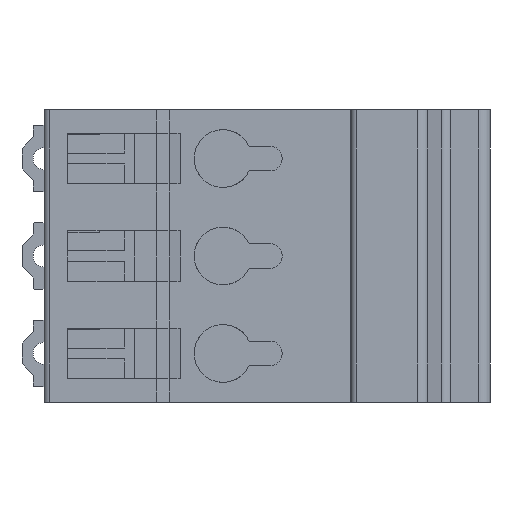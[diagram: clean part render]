
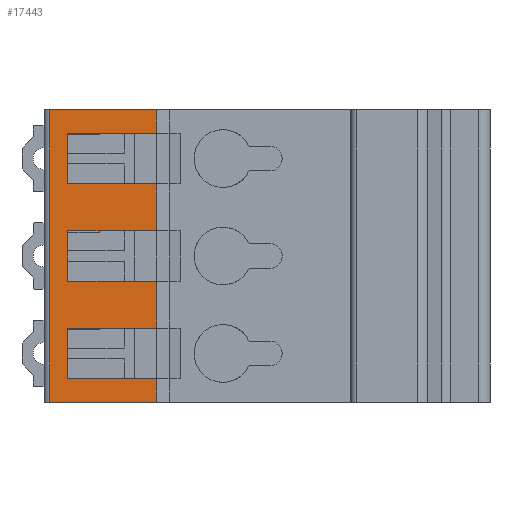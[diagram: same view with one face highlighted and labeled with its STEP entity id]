
A CAD part, front view. The second image highlights one B-rep face of the part: STEP entity #17443.
In plain terms, the highlighted planar face has unit normal (0, -1, 0).
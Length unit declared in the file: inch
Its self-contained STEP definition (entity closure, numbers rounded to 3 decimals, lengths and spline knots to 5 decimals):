
#3982=DIRECTION('',(0.,0.,1.));
#3983=VECTOR('',#3982,0.33465);
#3984=CARTESIAN_POINT('',(0.9626,0.,-0.16732));
#3985=LINE('',#3984,#3983);
#3986=DIRECTION('',(1.,0.,0.));
#3987=VECTOR('',#3986,0.76575);
#3988=CARTESIAN_POINT('',(0.19685,0.,0.69685));
#3989=LINE('',#3988,#3987);
#3990=DIRECTION('',(-1.,0.,0.));
#3991=VECTOR('',#3990,0.76575);
#3992=CARTESIAN_POINT('',(0.9626,0.,-1.3937));
#3993=LINE('',#3992,#3991);
#4002=DIRECTION('',(0.,0.,-1.));
#4003=VECTOR('',#4002,0.69685);
#4004=CARTESIAN_POINT('',(0.19685,0.,0.69685));
#4005=LINE('',#4004,#4003);
#4006=DIRECTION('',(0.,0.,-1.));
#4007=VECTOR('',#4006,0.69685);
#4008=CARTESIAN_POINT('',(0.19685,0.,0.));
#4009=LINE('',#4008,#4007);
#4010=DIRECTION('',(0.,0.,-1.));
#4011=VECTOR('',#4010,0.69685);
#4012=CARTESIAN_POINT('',(0.19685,0.,-0.69685));
#4013=LINE('',#4012,#4011);
#5643=DIRECTION('',(0.,0.,1.));
#5644=VECTOR('',#5643,0.16732);
#5645=CARTESIAN_POINT('',(0.9626,0.,-1.3937));
#5646=LINE('',#5645,#5644);
#5699=DIRECTION('',(-1.,0.,0.));
#5700=VECTOR('',#5699,0.63583);
#5701=CARTESIAN_POINT('',(0.9626,0.,-1.22638));
#5702=LINE('',#5701,#5700);
#5735=DIRECTION('',(0.,0.,1.));
#5736=VECTOR('',#5735,0.3622);
#5737=CARTESIAN_POINT('',(0.32677,0.,-1.22638));
#5738=LINE('',#5737,#5736);
#5767=DIRECTION('',(1.,0.,0.));
#5768=VECTOR('',#5767,0.63583);
#5769=CARTESIAN_POINT('',(0.32677,0.,-0.86417));
#5770=LINE('',#5769,#5768);
#5795=DIRECTION('',(0.,0.,1.));
#5796=VECTOR('',#5795,0.33465);
#5797=CARTESIAN_POINT('',(0.9626,0.,-0.86417));
#5798=LINE('',#5797,#5796);
#5875=DIRECTION('',(-1.,0.,0.));
#5876=VECTOR('',#5875,0.63583);
#5877=CARTESIAN_POINT('',(0.9626,0.,-0.52953));
#5878=LINE('',#5877,#5876);
#5911=DIRECTION('',(0.,0.,1.));
#5912=VECTOR('',#5911,0.3622);
#5913=CARTESIAN_POINT('',(0.32677,0.,-0.52953));
#5914=LINE('',#5913,#5912);
#5943=DIRECTION('',(1.,0.,0.));
#5944=VECTOR('',#5943,0.63583);
#5945=CARTESIAN_POINT('',(0.32677,0.,-0.16732));
#5946=LINE('',#5945,#5944);
#8102=DIRECTION('',(0.,0.,1.));
#8103=VECTOR('',#8102,0.16732);
#8104=CARTESIAN_POINT('',(0.9626,0.,0.52953));
#8105=LINE('',#8104,#8103);
#8141=DIRECTION('',(1.,0.,0.));
#8142=VECTOR('',#8141,0.63583);
#8143=CARTESIAN_POINT('',(0.32677,0.,0.52953));
#8144=LINE('',#8143,#8142);
#8189=DIRECTION('',(0.,0.,1.));
#8190=VECTOR('',#8189,0.3622);
#8191=CARTESIAN_POINT('',(0.32677,0.,0.16732));
#8192=LINE('',#8191,#8190);
#8595=DIRECTION('',(-1.,0.,0.));
#8596=VECTOR('',#8595,0.63583);
#8597=CARTESIAN_POINT('',(0.9626,0.,0.16732));
#8598=LINE('',#8597,#8596);
#9177=CARTESIAN_POINT('',(0.32677,0.,-0.52953));
#9178=CARTESIAN_POINT('',(0.32677,0.,-0.16732));
#9179=VERTEX_POINT('',#9177);
#9180=VERTEX_POINT('',#9178);
#9181=CARTESIAN_POINT('',(0.9626,0.,-0.52953));
#9182=VERTEX_POINT('',#9181);
#9183=CARTESIAN_POINT('',(0.9626,0.,-0.16732));
#9184=VERTEX_POINT('',#9183);
#9997=CARTESIAN_POINT('',(0.19685,0.,-1.3937));
#9998=VERTEX_POINT('',#9997);
#9999=CARTESIAN_POINT('',(0.9626,0.,-1.3937));
#10000=VERTEX_POINT('',#9999);
#10129=CARTESIAN_POINT('',(0.32677,0.,-1.22638));
#10130=CARTESIAN_POINT('',(0.32677,0.,-0.86417));
#10131=VERTEX_POINT('',#10129);
#10132=VERTEX_POINT('',#10130);
#10133=CARTESIAN_POINT('',(0.9626,0.,-1.22638));
#10134=VERTEX_POINT('',#10133);
#10135=CARTESIAN_POINT('',(0.9626,0.,-0.86417));
#10136=VERTEX_POINT('',#10135);
#10883=CARTESIAN_POINT('',(0.9626,0.,0.69685));
#10884=VERTEX_POINT('',#10883);
#10885=CARTESIAN_POINT('',(0.19685,0.,0.69685));
#10886=VERTEX_POINT('',#10885);
#10947=CARTESIAN_POINT('',(0.32677,0.,0.16732));
#10948=CARTESIAN_POINT('',(0.32677,0.,0.52953));
#10949=VERTEX_POINT('',#10947);
#10950=VERTEX_POINT('',#10948);
#10951=CARTESIAN_POINT('',(0.9626,0.,0.16732));
#10952=VERTEX_POINT('',#10951);
#10953=CARTESIAN_POINT('',(0.9626,0.,0.52953));
#10954=VERTEX_POINT('',#10953);
#11716=CARTESIAN_POINT('',(0.19685,0.,-0.69685));
#11717=VERTEX_POINT('',#11716);
#11831=CARTESIAN_POINT('',(0.19685,0.,0.));
#11832=VERTEX_POINT('',#11831);
#17402=CARTESIAN_POINT('',(0.57972,0.,-0.34843));
#17403=DIRECTION('',(0.,1.,0.));
#17404=DIRECTION('',(1.,0.,0.));
#17405=AXIS2_PLACEMENT_3D('',#17402,#17403,#17404);
#17406=PLANE('',#17405);
#17408=ORIENTED_EDGE('',*,*,#17407,.F.);
#17410=ORIENTED_EDGE('',*,*,#17409,.F.);
#17411=ORIENTED_EDGE('',*,*,#15305,.T.);
#17413=ORIENTED_EDGE('',*,*,#17412,.F.);
#17415=ORIENTED_EDGE('',*,*,#17414,.F.);
#17417=ORIENTED_EDGE('',*,*,#17416,.F.);
#17419=ORIENTED_EDGE('',*,*,#17418,.F.);
#17420=ORIENTED_EDGE('',*,*,#17388,.F.);
#17422=ORIENTED_EDGE('',*,*,#17421,.F.);
#17424=ORIENTED_EDGE('',*,*,#17423,.F.);
#17426=ORIENTED_EDGE('',*,*,#17425,.F.);
#17428=ORIENTED_EDGE('',*,*,#17427,.F.);
#17430=ORIENTED_EDGE('',*,*,#17429,.F.);
#17432=ORIENTED_EDGE('',*,*,#17431,.F.);
#17434=ORIENTED_EDGE('',*,*,#17433,.F.);
#17436=ORIENTED_EDGE('',*,*,#17435,.F.);
#17438=ORIENTED_EDGE('',*,*,#17437,.T.);
#17440=ORIENTED_EDGE('',*,*,#17439,.F.);
#17441=EDGE_LOOP('',(#17408,#17410,#17411,#17413,#17415,#17417,#17419,#17420,
#17422,#17424,#17426,#17428,#17430,#17432,#17434,#17436,#17438,#17440));
#17442=FACE_OUTER_BOUND('',#17441,.F.);
#17443=ADVANCED_FACE('',(#17442),#17406,.F.);
#15305=EDGE_CURVE('',#10886,#10884,#3989,.T.);
#17388=EDGE_CURVE('',#9184,#10952,#3985,.T.);
#17407=EDGE_CURVE('',#11832,#11717,#4009,.T.);
#17409=EDGE_CURVE('',#10886,#11832,#4005,.T.);
#17412=EDGE_CURVE('',#10954,#10884,#8105,.T.);
#17414=EDGE_CURVE('',#10950,#10954,#8144,.T.);
#17416=EDGE_CURVE('',#10949,#10950,#8192,.T.);
#17418=EDGE_CURVE('',#10952,#10949,#8598,.T.);
#17421=EDGE_CURVE('',#9180,#9184,#5946,.T.);
#17423=EDGE_CURVE('',#9179,#9180,#5914,.T.);
#17425=EDGE_CURVE('',#9182,#9179,#5878,.T.);
#17427=EDGE_CURVE('',#10136,#9182,#5798,.T.);
#17429=EDGE_CURVE('',#10132,#10136,#5770,.T.);
#17431=EDGE_CURVE('',#10131,#10132,#5738,.T.);
#17433=EDGE_CURVE('',#10134,#10131,#5702,.T.);
#17435=EDGE_CURVE('',#10000,#10134,#5646,.T.);
#17437=EDGE_CURVE('',#10000,#9998,#3993,.T.);
#17439=EDGE_CURVE('',#11717,#9998,#4013,.T.);
